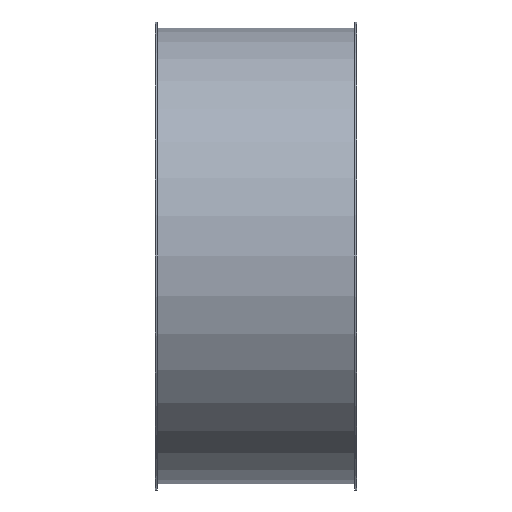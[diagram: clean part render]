
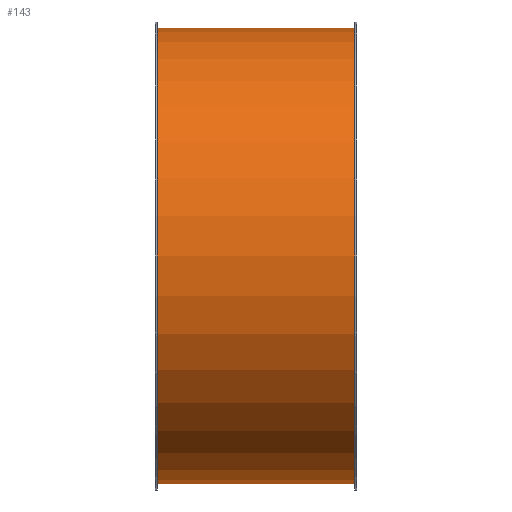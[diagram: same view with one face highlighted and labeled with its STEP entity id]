
A CAD part, front view. The second image highlights one B-rep face of the part: STEP entity #143.
In plain terms, the highlighted cylindrical face has radius 226 mm (diameter 452 mm), a full revolution.
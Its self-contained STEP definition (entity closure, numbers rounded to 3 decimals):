
#112=CARTESIAN_POINT('',(166.119,2.817,0.0));
#113=VERTEX_POINT('',#112);
#114=CARTESIAN_POINT('',(166.119,228.817,0.0));
#115=DIRECTION('',(-1.0,0.0,0.0));
#116=DIRECTION('',(0.0,-1.0,0.0));
#117=AXIS2_PLACEMENT_3D('',#114,#115,#116);
#118=CIRCLE('',#117,226.0);
#119=EDGE_CURVE('',#113,#113,#118,.T.);
#124=CARTESIAN_POINT('',(68.119,228.817,0.0));
#125=DIRECTION('',(-1.0,0.0,0.0));
#126=DIRECTION('',(0.0,-1.0,0.0));
#127=AXIS2_PLACEMENT_3D('',#124,#125,#126);
#128=CYLINDRICAL_SURFACE('',#127,226.0);
#129=CARTESIAN_POINT('',(-29.881,2.817,0.0));
#130=VERTEX_POINT('',#129);
#131=CARTESIAN_POINT('',(-29.881,228.817,0.0));
#132=DIRECTION('',(-1.0,0.0,0.0));
#133=DIRECTION('',(0.0,-1.0,0.0));
#134=AXIS2_PLACEMENT_3D('',#131,#132,#133);
#135=CIRCLE('',#134,226.0);
#136=EDGE_CURVE('',#130,#130,#135,.T.);
#137=ORIENTED_EDGE('',*,*,#136,.F.);
#138=EDGE_LOOP('',(#137));
#139=FACE_OUTER_BOUND('',#138,.T.);
#140=ORIENTED_EDGE('',*,*,#119,.T.);
#141=EDGE_LOOP('',(#140));
#142=FACE_BOUND('',#141,.T.);
#143=ADVANCED_FACE('',(#139,#142),#128,.T.);
